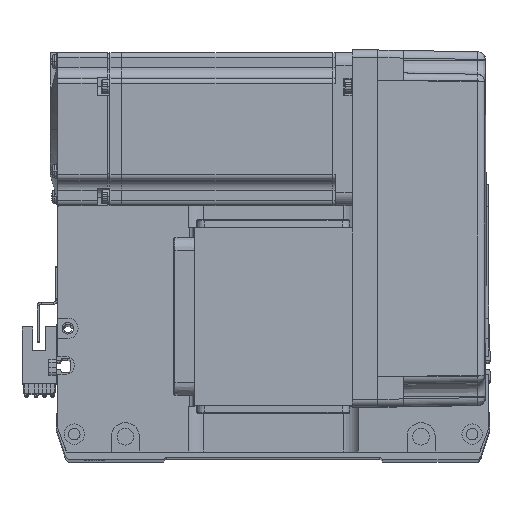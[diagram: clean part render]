
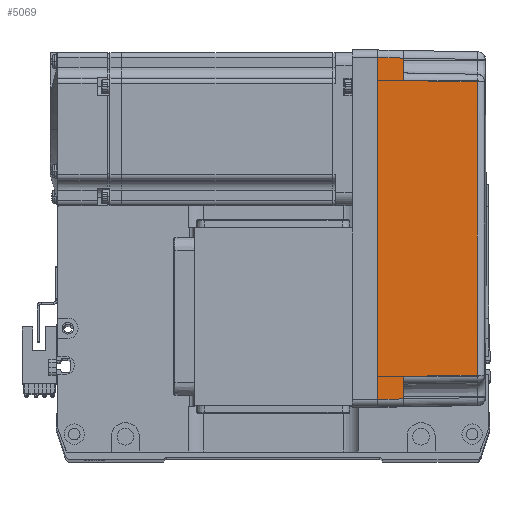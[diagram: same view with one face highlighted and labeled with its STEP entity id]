
A CAD part, top view. The second image highlights one B-rep face of the part: STEP entity #5069.
In plain terms, the highlighted planar face has unit normal (0.018, 0, 1) as drawn and (0, -1, 0.017) by its records, which use the part's own axes.
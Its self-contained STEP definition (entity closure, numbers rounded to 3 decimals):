
#7 = DIRECTION ( 'NONE',  ( -0.017, 0.017, 1. ) ) ;
#1082 = CARTESIAN_POINT ( 'NONE',  ( -66.826, -35.825, 10. ) ) ;
#2130 = CARTESIAN_POINT ( 'NONE',  ( 57.495, -35.32, 38.985 ) ) ;
#2946 = DIRECTION ( 'NONE',  ( 0., -0.017, -1. ) ) ;
#3775 = CARTESIAN_POINT ( 'NONE',  ( 70., -36., 0. ) ) ;
#5069 = ADVANCED_FACE ( 'NONE', ( #11986 ), #22064, .T. ) ;
#5349 = CARTESIAN_POINT ( 'NONE',  ( -67., -36., 0. ) ) ;
#5603 = VERTEX_POINT ( 'NONE', #33402 ) ;
#6087 = VERTEX_POINT ( 'NONE', #28578 ) ;
#6214 = VERTEX_POINT ( 'NONE', #28983 ) ;
#6535 = CARTESIAN_POINT ( 'NONE',  ( -57.495, -35.32, 38.985 ) ) ;
#6958 = CARTESIAN_POINT ( 'NONE',  ( 19.165, -35.316, 39.181 ) ) ;
#7252 = EDGE_CURVE ( 'NONE', #6087, #36360, #57988, .T. ) ;
#7524 = VECTOR ( 'NONE', #7, 1000. ) ;
#7721 = VECTOR ( 'NONE', #54493, 1000. ) ;
#9779 = CARTESIAN_POINT ( 'NONE',  ( 66.826, -35.825, 10. ) ) ;
#11155 = VECTOR ( 'NONE', #55414, 1000. ) ;
#11469 = DIRECTION ( 'NONE',  ( -1., 0., 0. ) ) ;
#11661 = CARTESIAN_POINT ( 'NONE',  ( -19.165, -35.316, 39.181 ) ) ;
#11986 = FACE_OUTER_BOUND ( 'NONE', #35860, .T. ) ;
#12659 = AXIS2_PLACEMENT_3D ( 'NONE', #3775, #55233, #2946 ) ;
#12675 = CARTESIAN_POINT ( 'NONE',  ( 58., -35.825, 10. ) ) ;
#14160 = CARTESIAN_POINT ( 'NONE',  ( -58., -35.825, 10. ) ) ;
#15695 = CARTESIAN_POINT ( 'NONE',  ( -57.495, -35.32, 38.985 ) ) ;
#16073 = EDGE_CURVE ( 'NONE', #32176, #6214, #24586, .T. ) ;
#16266 = EDGE_CURVE ( 'NONE', #36360, #49145, #60185, .T. ) ;
#17124 = EDGE_CURVE ( 'NONE', #6214, #6087, #27268, .T. ) ;
#22064 = PLANE ( 'NONE',  #12659 ) ;
#23241 = CARTESIAN_POINT ( 'NONE',  ( 67., -36., 0. ) ) ;
#23865 = CARTESIAN_POINT ( 'NONE',  ( 70., -35.825, 10. ) ) ;
#24073 = DIRECTION ( 'NONE',  ( -1., 0., 0. ) ) ;
#24586 = LINE ( 'NONE', #12675, #11155 ) ;
#26017 = ORIENTED_EDGE ( 'NONE', *, *, #52534, .T. ) ;
#26442 = ORIENTED_EDGE ( 'NONE', *, *, #16073, .T. ) ;
#27268 = B_SPLINE_CURVE_WITH_KNOTS ( 'NONE', 3,
 ( #2130, #6958, #11661, #6535 ),
 .UNSPECIFIED., .F., .F.,
 ( 4, 4 ),
 ( 0., 1. ),
 .UNSPECIFIED. ) ;
#28578 = CARTESIAN_POINT ( 'NONE',  ( -57.495, -35.32, 38.985 ) ) ;
#28983 = CARTESIAN_POINT ( 'NONE',  ( 57.495, -35.32, 38.985 ) ) ;
#30677 = LINE ( 'NONE', #46936, #52254 ) ;
#32176 = VERTEX_POINT ( 'NONE', #57965 ) ;
#32616 = ORIENTED_EDGE ( 'NONE', *, *, #16266, .T. ) ;
#33194 = EDGE_CURVE ( 'NONE', #5603, #44022, #34411, .T. ) ;
#33402 = CARTESIAN_POINT ( 'NONE',  ( 67., -36., 0. ) ) ;
#33467 = EDGE_CURVE ( 'NONE', #44022, #49145, #30677, .T. ) ;
#33611 = VERTEX_POINT ( 'NONE', #9779 ) ;
#34411 = LINE ( 'NONE', #53875, #7721 ) ;
#34467 = ORIENTED_EDGE ( 'NONE', *, *, #33194, .F. ) ;
#35115 = ORIENTED_EDGE ( 'NONE', *, *, #7252, .T. ) ;
#35860 = EDGE_LOOP ( 'NONE', ( #26017, #42930, #26442, #59768, #35115, #32616, #56151, #34467 ) ) ;
#36360 = VERTEX_POINT ( 'NONE', #14160 ) ;
#36868 = LINE ( 'NONE', #48681, #40561 ) ;
#37937 = VECTOR ( 'NONE', #24073, 1000. ) ;
#38708 = LINE ( 'NONE', #23241, #7524 ) ;
#40561 = VECTOR ( 'NONE', #11469, 1000. ) ;
#42593 = DIRECTION ( 'NONE',  ( 0.017, 0.017, 1. ) ) ;
#42930 = ORIENTED_EDGE ( 'NONE', *, *, #47473, .T. ) ;
#44022 = VERTEX_POINT ( 'NONE', #5349 ) ;
#46936 = CARTESIAN_POINT ( 'NONE',  ( -66.959, -35.958, 2.39 ) ) ;
#47473 = EDGE_CURVE ( 'NONE', #33611, #32176, #36868, .T. ) ;
#48681 = CARTESIAN_POINT ( 'NONE',  ( 70., -35.825, 10. ) ) ;
#49145 = VERTEX_POINT ( 'NONE', #1082 ) ;
#52254 = VECTOR ( 'NONE', #42593, 1000. ) ;
#52534 = EDGE_CURVE ( 'NONE', #5603, #33611, #38708, .T. ) ;
#53520 = VECTOR ( 'NONE', #58646, 1000. ) ;
#53875 = CARTESIAN_POINT ( 'NONE',  ( 0., -36., 0. ) ) ;
#54493 = DIRECTION ( 'NONE',  ( -1., 0., 0. ) ) ;
#55233 = DIRECTION ( 'NONE',  ( 0., -1., 0.017 ) ) ;
#55414 = DIRECTION ( 'NONE',  ( -0.017, 0.017, 1. ) ) ;
#56151 = ORIENTED_EDGE ( 'NONE', *, *, #33467, .F. ) ;
#57965 = CARTESIAN_POINT ( 'NONE',  ( 58., -35.825, 10. ) ) ;
#57988 = LINE ( 'NONE', #15695, #53520 ) ;
#58646 = DIRECTION ( 'NONE',  ( -0.017, -0.017, -1. ) ) ;
#59768 = ORIENTED_EDGE ( 'NONE', *, *, #17124, .T. ) ;
#60185 = LINE ( 'NONE', #23865, #37937 ) ;
